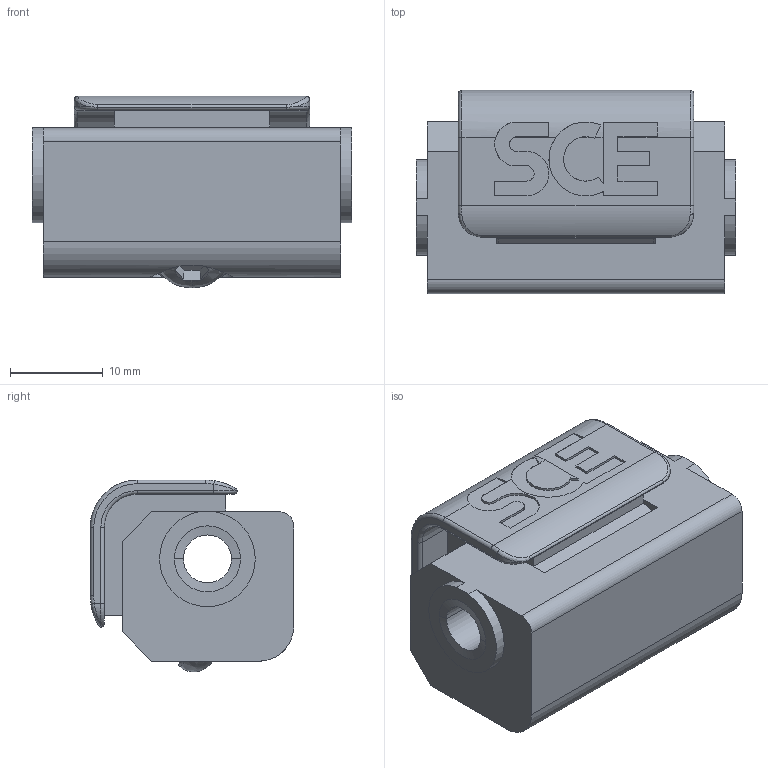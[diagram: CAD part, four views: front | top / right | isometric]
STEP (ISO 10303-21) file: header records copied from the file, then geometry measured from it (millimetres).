
FILE_DESCRIPTION((''),'2;1');
FILE_NAME('SCE-DHA14_ASM','2022-09-22T11:25:09',('mikek'),('SAGINAW CONTROL & ENGINEERING'),'CREO PARAMETRIC BY PTC INC, 2021284','CREO PARAMETRIC BY PTC INC, 2021284','');
FILE_SCHEMA(('AUTOMOTIVE_DESIGN { 1 0 10303 214 1 1 1 1 }'));
Length unit declared in the file: inch
Products named in the file (5): 126391; 126391_ASM; 126393; 102483; SCE-DHA14_ASM
Assembly tree (4 placements, depth 3):
  SCE-DHA14_ASM
    126391_ASM
      126391
    126393
    102483
Bounding box: 34.54 x 21.97 x 20.71 mm (x, y, z)
Volume: 9567.4 mm3; surface area: 6333.4 mm2
Topology: 3 solids, 3 shells, 165 faces, 453 edges, 293 vertices
Faces by surface type: plane 89, cylinder 50, torus 14, bspline 6, cone 6
Entity records: 7755 total; most frequent: CARTESIAN_POINT 1556, ORIENTED_EDGE 906, DIRECTION 901, PRESENTATION_STYLE_ASSIGNMENT 456, STYLED_ITEM 456, CURVE_STYLE 453, EDGE_CURVE 453, AXIS2_PLACEMENT_3D 308
